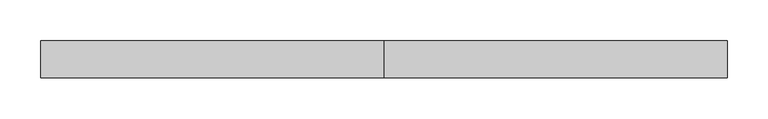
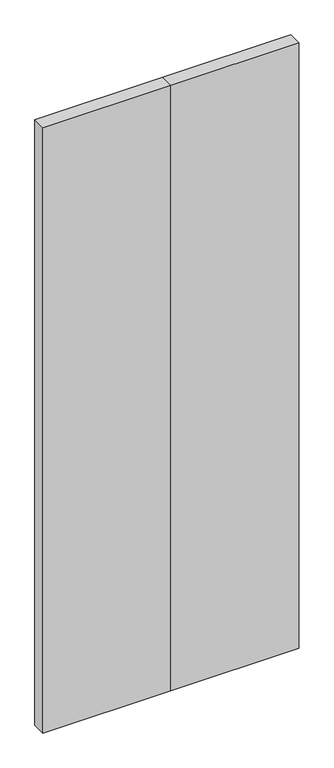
"""IFC4 building model written with IfcOpenShell, lengths in millimetres: proxy geometry, 电梯门 : 800mm_入口宽度."""

from ifc_helpers import new_model, si_unit, origin, origin_with_axes, place, context, project, spatial, polyline, outline, extrude, source, transform, mapped, element, save


def specialty_equipment_37f44acb(model_context):
    return source(origin(), model_context, "Body", "SweptSolid", [
        extrude(outline(polyline([(420.0, 135.0), (0.0, 135.0), (0.0, 180.0), (420.0, 180.0), (420.0, 135.0)])), origin_with_axes(), (0.0, 0.0, 1.0), 2100.0),
        extrude(outline(polyline([(0.0, 135.0), (-420.0, 135.0), (-420.0, 180.0), (0.0, 180.0), (0.0, 135.0)])), origin_with_axes(), (0.0, 0.0, 1.0), 2100.0),
    ])


if __name__ == "__main__":
    model = new_model("IFC4")
    model_context = context("Model", 3, world=origin())
    ifc_project = project(units=[si_unit("LENGTHUNIT", "METRE", prefix="MILLI")], contexts=[model_context])
    site = spatial("IfcSite", under=ifc_project)
    building = spatial("IfcBuilding", under=site)
    placement = place(None, origin())
    specialty_equipment_shape = specialty_equipment_37f44acb(model_context)
    element("IfcBuildingElementProxy", 1, Name="电梯门 : 800mm_入口宽度", ObjectType="电梯门 : 800mm_入口宽度", at=placement, inside=building, context=model_context, shape_type="MappedRepresentation", body=[
        mapped(specialty_equipment_shape, transform((0.0, 0.0, 0.0), x_axis=(1.0, 0.0, 0.0), y_axis=(0.0, 1.0, 0.0), z_axis=(0.0, 0.0, 1.0))),
    ])
    save(model, "model.ifc")
